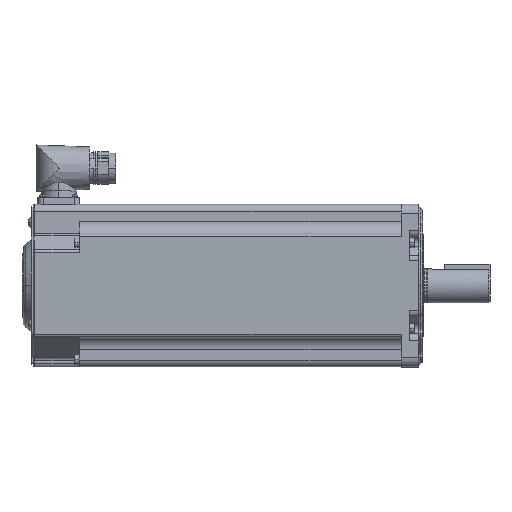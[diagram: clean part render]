
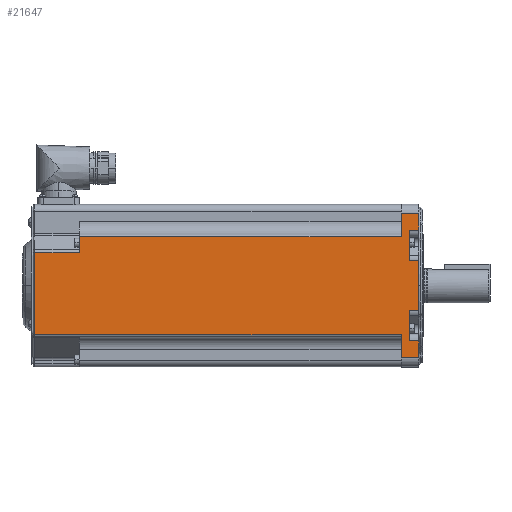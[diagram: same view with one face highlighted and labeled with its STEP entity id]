
A CAD part, top view. The second image highlights one B-rep face of the part: STEP entity #21647.
In plain terms, the highlighted planar face has unit normal (0, 0, 1) as drawn and (0, 0, -1) by its records, which use the part's own axes.
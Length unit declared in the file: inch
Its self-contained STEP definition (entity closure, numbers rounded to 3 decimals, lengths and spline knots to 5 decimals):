
#4842 = VERTEX_POINT ( 'NONE', #23635 ) ;
#12768 = CARTESIAN_POINT ( 'NONE',  ( -0.25, -1.52798, -2.24 ) ) ;
#12815 = DIRECTION ( 'NONE',  ( 0., 1., 0. ) ) ;
#12817 = VECTOR ( 'NONE', #12815, 39.37008 ) ;
#12832 = CARTESIAN_POINT ( 'NONE',  ( -0.25, -0.7742, -2.24 ) ) ;
#12834 = LINE ( 'NONE', #12832, #12817 ) ;
#12890 = CARTESIAN_POINT ( 'NONE',  ( -0.25, 0.69135, -2.24 ) ) ;
#12934 = CARTESIAN_POINT ( 'NONE',  ( -0.25, 1.52798, -2.24 ) ) ;
#13003 = DIRECTION ( 'NONE',  ( 0., 1., 0. ) ) ;
#13005 = VECTOR ( 'NONE', #13003, 39.37008 ) ;
#13006 = CARTESIAN_POINT ( 'NONE',  ( -0.25, 0.7742, -2.24 ) ) ;
#13008 = LINE ( 'NONE', #13006, #13005 ) ;
#13059 = CARTESIAN_POINT ( 'NONE',  ( -0.25, -0.69135, -2.24 ) ) ;
#13568 = CARTESIAN_POINT ( 'NONE',  ( 0., 1.99, -2.24 ) ) ;
#13574 = CARTESIAN_POINT ( 'NONE',  ( -10.59, 1.3525, -2.24 ) ) ;
#13591 = CARTESIAN_POINT ( 'NONE',  ( 0., 1.52798, -2.24 ) ) ;
#13593 = CARTESIAN_POINT ( 'NONE',  ( -0.48, 1.3525, -2.24 ) ) ;
#13597 = CARTESIAN_POINT ( 'NONE',  ( -0.48, -1.99, -2.24 ) ) ;
#13630 = DIRECTION ( 'NONE',  ( 0., -1., 0. ) ) ;
#13636 = CARTESIAN_POINT ( 'NONE',  ( -0.48, 1.99, -2.24 ) ) ;
#13641 = PLANE ( 'NONE',  #13695 ) ;
#13642 = DIRECTION ( 'NONE',  ( 0., 1., 0. ) ) ;
#13644 = VECTOR ( 'NONE', #13642, 39.37008 ) ;
#13646 = CARTESIAN_POINT ( 'NONE',  ( -0.48, -2.24, -2.24 ) ) ;
#13648 = CARTESIAN_POINT ( 'NONE',  ( -9.23, 1.415, -2.24 ) ) ;
#13650 = LINE ( 'NONE', #13646, #13644 ) ;
#13653 = DIRECTION ( 'NONE',  ( -1., 0., 0. ) ) ;
#13655 = VECTOR ( 'NONE', #13653, 39.37008 ) ;
#13656 = CARTESIAN_POINT ( 'NONE',  ( -9.23, -1.3525, -2.24 ) ) ;
#13658 = LINE ( 'NONE', #13656, #13655 ) ;
#13662 = DIRECTION ( 'NONE',  ( -1., 0., 0. ) ) ;
#13663 = VECTOR ( 'NONE', #13662, 39.37008 ) ;
#13665 = CARTESIAN_POINT ( 'NONE',  ( -9.23, -0.91, -2.24 ) ) ;
#13666 = LINE ( 'NONE', #13665, #13663 ) ;
#13674 = DIRECTION ( 'NONE',  ( 0., 0., 1. ) ) ;
#13677 = FACE_OUTER_BOUND ( 'NONE', #21624, .T. ) ;
#13695 = AXIS2_PLACEMENT_3D ( 'NONE', #13648, #13674, #13630 ) ;
#13698 = DIRECTION ( 'NONE',  ( 0., 1., 0. ) ) ;
#13700 = VECTOR ( 'NONE', #13698, 39.37008 ) ;
#13701 = CARTESIAN_POINT ( 'NONE',  ( -0.48, -2.24, -2.24 ) ) ;
#13708 = DIRECTION ( 'NONE',  ( 0., 1., 0. ) ) ;
#13709 = VECTOR ( 'NONE', #13708, 39.37008 ) ;
#13711 = CARTESIAN_POINT ( 'NONE',  ( -10.59, 1.3525, -2.24 ) ) ;
#13713 = LINE ( 'NONE', #13711, #13709 ) ;
#13715 = LINE ( 'NONE', #13827, #13826 ) ;
#13717 = DIRECTION ( 'NONE',  ( 1., 0., 0. ) ) ;
#13719 = VECTOR ( 'NONE', #13717, 39.37008 ) ;
#13721 = CARTESIAN_POINT ( 'NONE',  ( -9.23, 1.3525, -2.24 ) ) ;
#13728 = CARTESIAN_POINT ( 'NONE',  ( 0., -0.69135, -2.24 ) ) ;
#13730 = LINE ( 'NONE', #13701, #13700 ) ;
#13732 = CARTESIAN_POINT ( 'NONE',  ( -10.59, -0.91, -2.24 ) ) ;
#13734 = DIRECTION ( 'NONE',  ( 1., 0., 0. ) ) ;
#13735 = VECTOR ( 'NONE', #13734, 39.37008 ) ;
#13737 = CARTESIAN_POINT ( 'NONE',  ( -9.23, 1.99, -2.24 ) ) ;
#13739 = LINE ( 'NONE', #13737, #13735 ) ;
#13741 = LINE ( 'NONE', #13721, #13719 ) ;
#13746 = CARTESIAN_POINT ( 'NONE',  ( -0.48, -1.3525, -2.24 ) ) ;
#13748 = DIRECTION ( 'NONE',  ( 0., 1., 0. ) ) ;
#13750 = VECTOR ( 'NONE', #13748, 39.37008 ) ;
#13751 = CARTESIAN_POINT ( 'NONE',  ( 0., -2.24, -2.24 ) ) ;
#13752 = LINE ( 'NONE', #13751, #13750 ) ;
#13755 = CARTESIAN_POINT ( 'NONE',  ( 0., 0.69135, -2.24 ) ) ;
#13757 = DIRECTION ( 'NONE',  ( -1., 0., 0. ) ) ;
#13759 = VECTOR ( 'NONE', #13757, 39.37008 ) ;
#13760 = CARTESIAN_POINT ( 'NONE',  ( -9.23, -1.99, -2.24 ) ) ;
#13762 = LINE ( 'NONE', #13760, #13759 ) ;
#13773 = DIRECTION ( 'NONE',  ( 1., 0., 0. ) ) ;
#13775 = VECTOR ( 'NONE', #13773, 39.37008 ) ;
#13776 = CARTESIAN_POINT ( 'NONE',  ( -9.23, -1.52798, -2.24 ) ) ;
#13780 = DIRECTION ( 'NONE',  ( 0., 1., 0. ) ) ;
#13782 = VECTOR ( 'NONE', #13780, 39.37008 ) ;
#13783 = CARTESIAN_POINT ( 'NONE',  ( 0., -2.24, -2.24 ) ) ;
#13785 = LINE ( 'NONE', #13783, #13782 ) ;
#13802 = DIRECTION ( 'NONE',  ( -1., 0., 0. ) ) ;
#13804 = VECTOR ( 'NONE', #13802, 39.37008 ) ;
#13806 = CARTESIAN_POINT ( 'NONE',  ( -9.23, 1.52798, -2.24 ) ) ;
#13808 = LINE ( 'NONE', #13806, #13804 ) ;
#13811 = DIRECTION ( 'NONE',  ( 1., 0., 0. ) ) ;
#13813 = VECTOR ( 'NONE', #13811, 39.37008 ) ;
#13815 = CARTESIAN_POINT ( 'NONE',  ( -9.23, 0.69135, -2.24 ) ) ;
#13816 = LINE ( 'NONE', #13815, #13813 ) ;
#13818 = LINE ( 'NONE', #13776, #13775 ) ;
#13824 = DIRECTION ( 'NONE',  ( 0., 1., 0. ) ) ;
#13826 = VECTOR ( 'NONE', #13824, 39.37008 ) ;
#13827 = CARTESIAN_POINT ( 'NONE',  ( 0., -2.24, -2.24 ) ) ;
#13883 = DIRECTION ( 'NONE',  ( -1., 0., 0. ) ) ;
#13885 = VECTOR ( 'NONE', #13883, 39.37008 ) ;
#13886 = CARTESIAN_POINT ( 'NONE',  ( -9.23, -0.69135, -2.24 ) ) ;
#13888 = LINE ( 'NONE', #13886, #13885 ) ;
#14113 = CARTESIAN_POINT ( 'NONE',  ( 0., -1.52798, -2.24 ) ) ;
#14143 = CARTESIAN_POINT ( 'NONE',  ( 0., -1.99, -2.24 ) ) ;
#20833 = DIRECTION ( 'NONE',  ( 0., -1., 0. ) ) ;
#20836 = VECTOR ( 'NONE', #20833, 39.37008 ) ;
#20837 = CARTESIAN_POINT ( 'NONE',  ( -9.355, -2.24, -2.24 ) ) ;
#20838 = LINE ( 'NONE', #20837, #20836 ) ;
#20946 = CARTESIAN_POINT ( 'NONE',  ( -9.355, -1.3525, -2.24 ) ) ;
#21166 = VERTEX_POINT ( 'NONE', #20946 ) ;
#21411 = VERTEX_POINT ( 'NONE', #12768 ) ;
#21430 = EDGE_CURVE ( 'NONE', #21411, #21508, #12834, .T. ) ;
#21456 = VERTEX_POINT ( 'NONE', #12890 ) ;
#21475 = VERTEX_POINT ( 'NONE', #12934 ) ;
#21479 = EDGE_CURVE ( 'NONE', #21456, #21475, #13008, .T. ) ;
#21508 = VERTEX_POINT ( 'NONE', #13059 ) ;
#21618 = VERTEX_POINT ( 'NONE', #13597 ) ;
#21619 = VERTEX_POINT ( 'NONE', #13593 ) ;
#21620 = VERTEX_POINT ( 'NONE', #13591 ) ;
#21624 = EDGE_LOOP ( 'NONE', ( #21649, #21653, #21640, #21656, #21663, #21657, #21631, #21664, #21651, #21661, #21676, #21632, #21673, #21666, #21667, #21637, #21677, #21681 ) ) ;
#21631 = ORIENTED_EDGE ( 'NONE', *, *, #21662, .T. ) ;
#21632 = ORIENTED_EDGE ( 'NONE', *, *, #21671, .T. ) ;
#21637 = ORIENTED_EDGE ( 'NONE', *, *, #21683, .T. ) ;
#21639 = VERTEX_POINT ( 'NONE', #13568 ) ;
#21640 = ORIENTED_EDGE ( 'NONE', *, *, #21645, .T. ) ;
#21641 = VERTEX_POINT ( 'NONE', #13574 ) ;
#21643 = EDGE_CURVE ( 'NONE', #4842, #21658, #13666, .T. ) ;
#21644 = EDGE_CURVE ( 'NONE', #21654, #21166, #13658, .T. ) ;
#21645 = EDGE_CURVE ( 'NONE', #21618, #21654, #13650, .T. ) ;
#21647 = ADVANCED_FACE ( 'NONE', ( #13677 ), #13641, .F. ) ;
#21648 = EDGE_CURVE ( 'NONE', #21764, #21618, #13762, .T. ) ;
#21649 = ORIENTED_EDGE ( 'NONE', *, *, #21650, .F. ) ;
#21650 = EDGE_CURVE ( 'NONE', #21764, #21762, #13752, .T. ) ;
#21651 = ORIENTED_EDGE ( 'NONE', *, *, #21665, .T. ) ;
#21652 = VERTEX_POINT ( 'NONE', #13636 ) ;
#21653 = ORIENTED_EDGE ( 'NONE', *, *, #21648, .T. ) ;
#21654 = VERTEX_POINT ( 'NONE', #13746 ) ;
#21655 = EDGE_CURVE ( 'NONE', #21652, #21639, #13739, .T. ) ;
#21656 = ORIENTED_EDGE ( 'NONE', *, *, #21644, .T. ) ;
#21657 = ORIENTED_EDGE ( 'NONE', *, *, #21643, .T. ) ;
#21658 = VERTEX_POINT ( 'NONE', #13732 ) ;
#21659 = VERTEX_POINT ( 'NONE', #13755 ) ;
#21660 = EDGE_CURVE ( 'NONE', #21641, #21619, #13741, .T. ) ;
#21661 = ORIENTED_EDGE ( 'NONE', *, *, #21655, .T. ) ;
#21662 = EDGE_CURVE ( 'NONE', #21658, #21641, #13713, .T. ) ;
#21663 = ORIENTED_EDGE ( 'NONE', *, *, #31483, .F. ) ;
#21664 = ORIENTED_EDGE ( 'NONE', *, *, #21660, .T. ) ;
#21665 = EDGE_CURVE ( 'NONE', #21619, #21652, #13730, .T. ) ;
#21666 = ORIENTED_EDGE ( 'NONE', *, *, #21670, .T. ) ;
#21667 = ORIENTED_EDGE ( 'NONE', *, *, #21669, .F. ) ;
#21668 = VERTEX_POINT ( 'NONE', #13728 ) ;
#21669 = EDGE_CURVE ( 'NONE', #21668, #21659, #13715, .T. ) ;
#21670 = EDGE_CURVE ( 'NONE', #21456, #21659, #13816, .T. ) ;
#21671 = EDGE_CURVE ( 'NONE', #21620, #21475, #13808, .T. ) ;
#21673 = ORIENTED_EDGE ( 'NONE', *, *, #21479, .F. ) ;
#21675 = EDGE_CURVE ( 'NONE', #21620, #21639, #13785, .T. ) ;
#21676 = ORIENTED_EDGE ( 'NONE', *, *, #21675, .F. ) ;
#21677 = ORIENTED_EDGE ( 'NONE', *, *, #21430, .F. ) ;
#21678 = EDGE_CURVE ( 'NONE', #21411, #21762, #13818, .T. ) ;
#21681 = ORIENTED_EDGE ( 'NONE', *, *, #21678, .T. ) ;
#21683 = EDGE_CURVE ( 'NONE', #21668, #21508, #13888, .T. ) ;
#21762 = VERTEX_POINT ( 'NONE', #14113 ) ;
#21764 = VERTEX_POINT ( 'NONE', #14143 ) ;
#23635 = CARTESIAN_POINT ( 'NONE',  ( -9.355, -0.91, -2.24 ) ) ;
#31483 = EDGE_CURVE ( 'NONE', #4842, #21166, #20838, .T. ) ;
